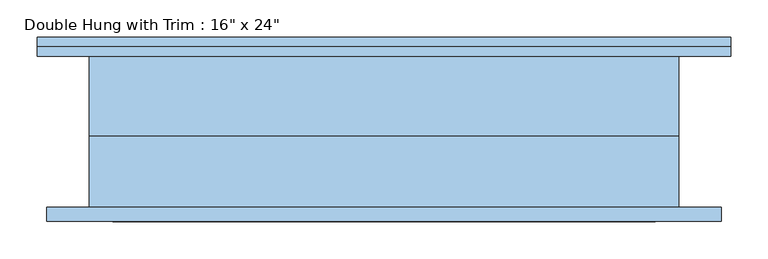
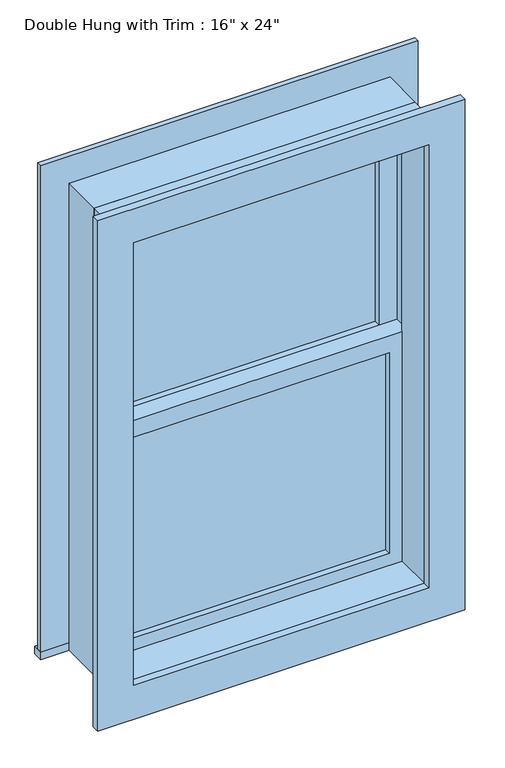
"""IFC4 building model written with IfcOpenShell, lengths in millimetres: window geometry."""

import ifcopenshell
import ifcopenshell.guid

model = None  # the IFC model being written
_history = None  # IfcOwnerHistory: only IFC2X3 demands one
_inside = {}  # id of a spatial element -> (the spatial element, [elements in it])
_under = {}  # id of a project, library or spatial element -> (it, [spatial elements below it])
_declared = {}  # id of a project -> (the project, [libraries it declares])
_typed = {}  # id of a type object -> (the type object, [elements of that type])
_made_of = {}  # id of a material, layer set ... -> (it, [elements and type objects made of it])


def new_model(schema):
    """Start an empty IFC model of exactly this schema.

    Asked for "IFC4X3", IfcOpenShell would pick the latest addendum, in which some entities
    have other attributes; the version numbers below select the first issue.
    IFC2X3 requires an IfcOwnerHistory on every rooted entity: one is made here for all.
    """
    global model, _history
    if schema == "IFC4X3":
        model = ifcopenshell.file(schema_version=(4, 3, 0, 0))
    else:
        model = ifcopenshell.file(schema=schema)
    _inside.clear()
    _under.clear()
    _declared.clear()
    _typed.clear()
    _made_of.clear()
    _history = None
    if model.schema == "IFC2X3":
        org = make("IfcOrganization", Name="unknown")
        user = make(
            "IfcPersonAndOrganization",
            ThePerson=make("IfcPerson", FamilyName="unknown"),
            TheOrganization=org,
        )
        app = make(
            "IfcApplication",
            ApplicationDeveloper=org,
            Version="unknown",
            ApplicationFullName="unknown",
            ApplicationIdentifier="unknown",
        )
        _history = make(
            "IfcOwnerHistory",
            OwningUser=user,
            OwningApplication=app,
            ChangeAction="ADDED",
            CreationDate=0,
        )
    return model


def make(cls, **values):
    """One entity of the class cls with the attributes given. An attribute that is None is left unset."""
    return model.create_entity(
        cls, **{name: value for name, value in values.items() if value is not None}
    )


def rooted(cls, **values):
    """An entity with a GlobalId (a new one), such as an element, a storey or a relation."""
    return make(cls, GlobalId=ifcopenshell.guid.new(), OwnerHistory=_history, **values)


def si_unit(unit_type, name, prefix=None):
    """IfcSIUnit, for example si_unit("LENGTHUNIT", "METRE", prefix="MILLI")."""
    return make("IfcSIUnit", UnitType=unit_type, Prefix=prefix, Name=name)


def assignment(units):
    """IfcUnitAssignment: the units of a project."""
    return None if units is None else make("IfcUnitAssignment", Units=units)


def point(xyz):
    """IfcCartesianPoint."""
    return None if xyz is None else make("IfcCartesianPoint", Coordinates=xyz)


def direction(xyz):
    """IfcDirection."""
    return None if xyz is None else make("IfcDirection", DirectionRatios=xyz)


def frame(location, z_axis=None, x_axis=None):
    """IfcAxis2Placement3D, a coordinate frame: its origin and axes. An axis left out is left unset."""
    return make(
        "IfcAxis2Placement3D",
        Location=point(location),
        Axis=direction(z_axis),
        RefDirection=direction(x_axis),
    )


def origin():
    """The frame at (0, 0, 0) with its axes left unset."""
    return frame((0.0, 0.0, 0.0))


def place(relative_to, where):
    """IfcLocalPlacement: puts the frame where relative to a parent placement (None: the world)."""
    return make(
        "IfcLocalPlacement", PlacementRelTo=relative_to, RelativePlacement=where
    )


def context(
    kind, dimensions, precision=None, world=None, true_north=None, identifier=None
):
    """IfcGeometricRepresentationContext, for example the 3D "Model" context."""
    return make(
        "IfcGeometricRepresentationContext",
        ContextIdentifier=identifier,
        ContextType=kind,
        CoordinateSpaceDimension=dimensions,
        Precision=precision,
        WorldCoordinateSystem=world,
        TrueNorth=true_north,
    )


def project(units=None, contexts=None):
    """IfcProject with its units and contexts."""
    return rooted(
        "IfcProject",
        Name="project",
        RepresentationContexts=contexts,
        UnitsInContext=assignment(units),
    )


def spatial(cls, under=None, at=None, **own):
    """A site, building, storey or space (cls), placed at a placement, below another one or the project."""
    s = rooted(cls, ObjectPlacement=at, **own)
    if under is not None:
        _under.setdefault(under.id(), (under, []))[1].append(s)
    return s


def polyline(points):
    """IfcPolyline through the points."""
    return make("IfcPolyline", Points=[point(p) for p in points])


def outline(outer, holes=None, kind="AREA"):
    """IfcArbitraryClosedProfileDef: a profile drawn as a closed curve; with holes, ...WithVoids."""
    if holes is None:
        return make("IfcArbitraryClosedProfileDef", ProfileType=kind, OuterCurve=outer)
    return make(
        "IfcArbitraryProfileDefWithVoids",
        ProfileType=kind,
        OuterCurve=outer,
        InnerCurves=holes,
    )


def extrude(swept, where, along, depth):
    """IfcExtrudedAreaSolid: the profile swept, set in the frame where, extruded along a direction by depth."""
    return make(
        "IfcExtrudedAreaSolid",
        SweptArea=swept,
        Position=where,
        ExtrudedDirection=direction(along),
        Depth=depth,
    )


def shape(context_of_items, identifier, shape_type, items):
    """IfcShapeRepresentation: the items that make up one representation, for example the "Body"."""
    return make(
        "IfcShapeRepresentation",
        ContextOfItems=context_of_items,
        RepresentationIdentifier=identifier,
        RepresentationType=shape_type,
        Items=items,
    )


def source(mapping_origin, context_of_items, identifier, shape_type, items):
    """IfcRepresentationMap: a shape defined once, which mapped items show again and again."""
    return make(
        "IfcRepresentationMap",
        MappingOrigin=mapping_origin,
        MappedRepresentation=shape(context_of_items, identifier, shape_type, items),
    )


def transform(
    local_origin,
    x_axis=None,
    y_axis=None,
    z_axis=None,
    scale=None,
    scale2=None,
    scale3=None,
    uniform=True,
):
    """IfcCartesianTransformationOperator3D, or its non-uniform kind. x_axis, y_axis, z_axis: its Axis1, 2, 3."""
    if uniform:
        return make(
            "IfcCartesianTransformationOperator3D",
            Axis1=direction(x_axis),
            Axis2=direction(y_axis),
            LocalOrigin=point(local_origin),
            Scale=scale,
            Axis3=direction(z_axis),
        )
    return make(
        "IfcCartesianTransformationOperator3DnonUniform",
        Axis1=direction(x_axis),
        Axis2=direction(y_axis),
        LocalOrigin=point(local_origin),
        Scale=scale,
        Axis3=direction(z_axis),
        Scale2=scale2,
        Scale3=scale3,
    )


def mapped(mapping_source, mapping_target):
    """IfcMappedItem: shows the shape of a source again, moved by a transform."""
    return make(
        "IfcMappedItem", MappingSource=mapping_source, MappingTarget=mapping_target
    )


def made_of(thing, what):
    """Note that an element or type object is made of a material, layer set ...; save() writes the relation."""
    if what is not None:
        _made_of.setdefault(what.id(), (what, []))[1].append(thing)
    return thing


def element(
    cls,
    number,
    at=None,
    inside=None,
    cuts=None,
    type_object=None,
    material=None,
    context=None,
    identifier="Body",
    shape_type=None,
    held_by="IfcProductDefinitionShape",
    body=None,
    shapes=None,
    **own,
):
    """One element of the class cls, such as IfcWall. Its Tag is "e" and its number.

    at: its placement. inside: the storey or other place that contains it. cuts: it is an
    opening in that element (IfcRelVoidsElement). A single representation is given by context,
    identifier, shape_type and body (its items); several are given by shapes. held_by: the class
    of the entity that holds the representations. save() writes the other relations.
    """
    e = rooted(cls, Tag="e%d" % number, ObjectPlacement=at, **own)
    if body is not None:
        shapes = [shape(context, identifier, shape_type, body)]
    if shapes is not None:
        e.Representation = make(held_by, Representations=shapes)
    if inside is not None:
        _inside.setdefault(inside.id(), (inside, []))[1].append(e)
    if cuts is not None:
        rooted(
            "IfcRelVoidsElement", RelatingBuildingElement=cuts, RelatedOpeningElement=e
        )
    if type_object is not None:
        _typed.setdefault(type_object.id(), (type_object, []))[1].append(e)
    return made_of(e, material)


def aggregate(whole, parts):
    """IfcRelAggregates: a whole, such as a stair, and the parts it consists of."""
    return rooted("IfcRelAggregates", RelatingObject=whole, RelatedObjects=parts)


def save(model, path):
    """Write the relations noted so far, then the file.

    IfcRelAggregates (storeys below a building ...), IfcRelContainedInSpatialStructure (elements
    in a storey), IfcRelDefinesByType, IfcRelAssociatesMaterial and IfcRelDeclares: one each for
    every whole, place, type object, material and project.
    """
    for whole, parts in _under.values():
        aggregate(whole, parts)
    for where, things in _inside.values():
        rooted(
            "IfcRelContainedInSpatialStructure",
            RelatedElements=things,
            RelatingStructure=where,
        )
    for kind, things in _typed.values():
        rooted("IfcRelDefinesByType", RelatedObjects=things, RelatingType=kind)
    for what, things in _made_of.values():
        rooted("IfcRelAssociatesMaterial", RelatedObjects=things, RelatingMaterial=what)
    for by, libraries in _declared.values():
        rooted("IfcRelDeclares", RelatingContext=by, RelatedDefinitions=libraries)
    model.write(path)


def window_3d187e63(model_context):
    return source(origin(), model_context, "Body", "SweptSolid", [
        extrude(outline(polyline([(-332.7300781, 22.225), (332.7300781, 22.225), (332.7300781, 9.525), (-332.7300781, 9.525), (-332.7300781, 22.225)])), frame((0.0, 0.0, 977.9), z_axis=(0.0, 0.0, 1.0), x_axis=(1.0, 0.0, 0.0)), (0.0, 0.0, 1.0), 523.875),
        extrude(outline(polyline([(1546.225, -377.1800781), (933.45, -377.1800781), (933.45, 377.1800781), (1546.225, 377.1800781), (1546.225, -377.1800781)]), holes=[polyline([(1501.775, -332.7300781), (1501.775, 332.7300781), (977.9, 332.7300781), (977.9, -332.7300781), (1501.775, -332.7300781)])]), frame((0.0, -6.35, 0.0), z_axis=(0.0, 1.0, 0.0), x_axis=(0.0, 0.0, 1.0)), (0.0, 0.0, 1.0), 44.45),
        extrude(outline(polyline([(-466.0800781, 127.0), (466.0800781, 127.0), (466.0800781, 101.6), (-466.0800781, 101.6), (-466.0800781, 127.0)])), frame((0.0, 0.0, 914.4), z_axis=(0.0, 0.0, 1.0), x_axis=(1.0, 0.0, 0.0)), (0.0, 0.0, 1.0), 19.05),
        extrude(outline(polyline([(2114.55, -377.1800781), (2114.55, 377.1800781), (933.45, 377.1800781), (933.45, 466.0800781), (2203.45, 466.0800781), (2203.45, -466.0800781), (933.45, -466.0800781), (933.45, -377.1800781), (2114.55, -377.1800781)])), frame((0.0, 101.6, 0.0), z_axis=(0.0, 1.0, 0.0), x_axis=(0.0, 0.0, 1.0)), (0.0, 0.0, 1.0), 12.7),
        extrude(outline(polyline([(2190.75, 453.3800781), (2190.75, -453.3800781), (857.25, -453.3800781), (857.25, 453.3800781), (2190.75, 453.3800781)]), holes=[polyline([(2101.85, 364.4800781), (946.15, 364.4800781), (946.15, -364.4800781), (2101.85, -364.4800781), (2101.85, 364.4800781)])]), frame((0.0, -120.65, 0.0), z_axis=(0.0, 1.0, 0.0), x_axis=(0.0, 0.0, 1.0)), (0.0, 0.0, 1.0), 19.05),
        extrude(outline(polyline([(332.7300781, 53.975), (-332.7300781, 53.975), (-332.7300781, 66.675), (332.7300781, 66.675), (332.7300781, 53.975)])), frame((0.0, 0.0, 1546.225), z_axis=(0.0, 0.0, 1.0), x_axis=(1.0, 0.0, 0.0)), (0.0, 0.0, 1.0), 523.875),
        extrude(outline(polyline([(2114.55, -377.1800781), (1501.775, -377.1800781), (1501.775, 377.1800781), (2114.55, 377.1800781), (2114.55, -377.1800781)]), holes=[polyline([(2070.1, -332.7300781), (2070.1, 332.7300781), (1546.225, 332.7300781), (1546.225, -332.7300781), (2070.1, -332.7300781)])]), frame((0.0, 38.1, 0.0), z_axis=(0.0, 1.0, 0.0), x_axis=(0.0, 0.0, 1.0)), (0.0, 0.0, 1.0), 44.45),
        extrude(outline(polyline([(2133.6, -396.2300781), (914.4, -396.2300781), (914.4, 396.2300781), (2133.6, 396.2300781), (2133.6, -396.2300781)]), holes=[polyline([(2101.85, -364.4800781), (2101.85, 364.4800781), (946.15, 364.4800781), (946.15, -364.4800781), (2101.85, -364.4800781)])]), frame((0.0, -101.6, 0.0), z_axis=(0.0, 1.0, 0.0), x_axis=(0.0, 0.0, 1.0)), (0.0, 0.0, 1.0), 95.25),
        extrude(outline(polyline([(2133.6, 396.2300781), (2133.6, -396.2300781), (914.4, -396.2300781), (914.4, 396.2300781), (2133.6, 396.2300781)]), holes=[polyline([(2114.55, 377.1800781), (933.45, 377.1800781), (933.45, -377.1800781), (2114.55, -377.1800781), (2114.55, 377.1800781)])]), frame((0.0, -6.35, 0.0), z_axis=(0.0, 1.0, 0.0), x_axis=(0.0, 0.0, 1.0)), (0.0, 0.0, 1.0), 107.95),
    ])


if __name__ == "__main__":
    model = new_model("IFC4")
    model_context = context("Model", 3, world=origin())
    ifc_project = project(units=[si_unit("LENGTHUNIT", "METRE", prefix="MILLI")], contexts=[model_context])
    site = spatial("IfcSite", under=ifc_project)
    building = spatial("IfcBuilding", under=site)
    placement = place(None, origin())
    window_shape = window_3d187e63(model_context)
    element("IfcWindow", 1, ObjectType="Double Hung with Trim : 16\" x 24\"", at=placement, inside=building, context=model_context, shape_type="MappedRepresentation", body=[
        mapped(window_shape, transform((0.0, 0.0, 0.0), x_axis=(1.0, 0.0, 0.0), y_axis=(0.0, 1.0, 0.0), z_axis=(0.0, 0.0, 1.0))),
    ])
    save(model, "model.ifc")
